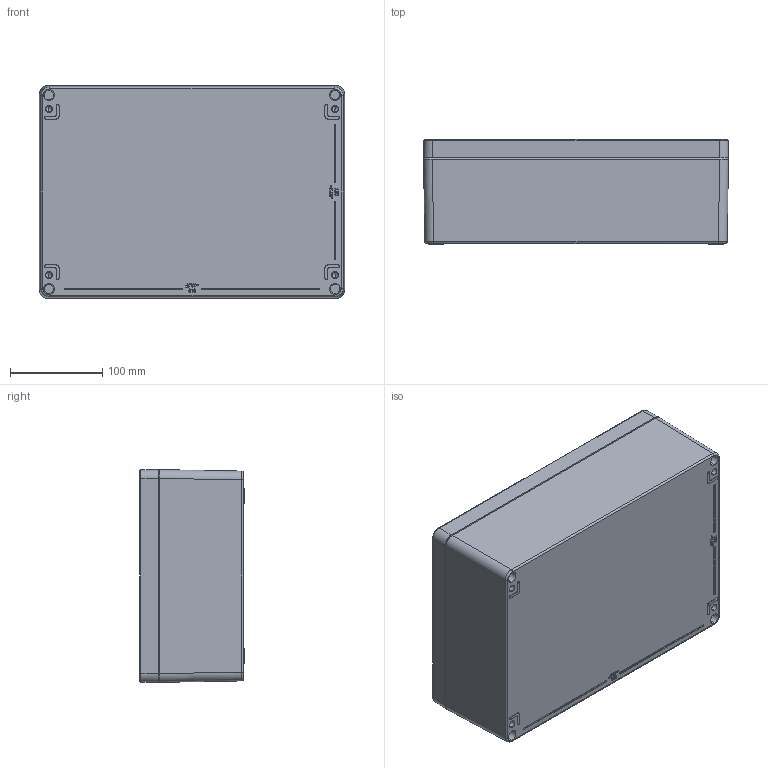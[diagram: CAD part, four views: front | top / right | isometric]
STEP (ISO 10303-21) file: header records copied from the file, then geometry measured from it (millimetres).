
FILE_DESCRIPTION (( 'STEP AP203' ), '1' );
FILE_NAME ('BB094.STEP', '2024-12-28T13:09:01', ( '' ), ( '' ), 'SwSTEP 2.0', 'SolidWorks 2019', '' );
FILE_SCHEMA (( 'CONFIG_CONTROL_DESIGN' ));
Length unit declared in the file: millimetre
Products named in the file (3): BASE 330; BB094; LID 330
Assembly tree (2 placements, depth 2):
  BB094
    BASE 330
    LID 330
Bounding box: 330.5 x 113.5 x 230.5 mm (x, y, z)
Volume: 1404875.7 mm3; surface area: 559321.6 mm2
Topology: 2 solids, 2 shells, 964 faces, 2557 edges, 1681 vertices
Faces by surface type: plane 371, cone 254, bspline 220, cylinder 119
Entity records: 42411 total; most frequent: CARTESIAN_POINT 20300, ORIENTED_EDGE 5076, DIRECTION 3537, EDGE_CURVE 2538, VERTEX_POINT 1681, VECTOR 1309, LINE 1309, AXIS2_PLACEMENT_3D 1114
